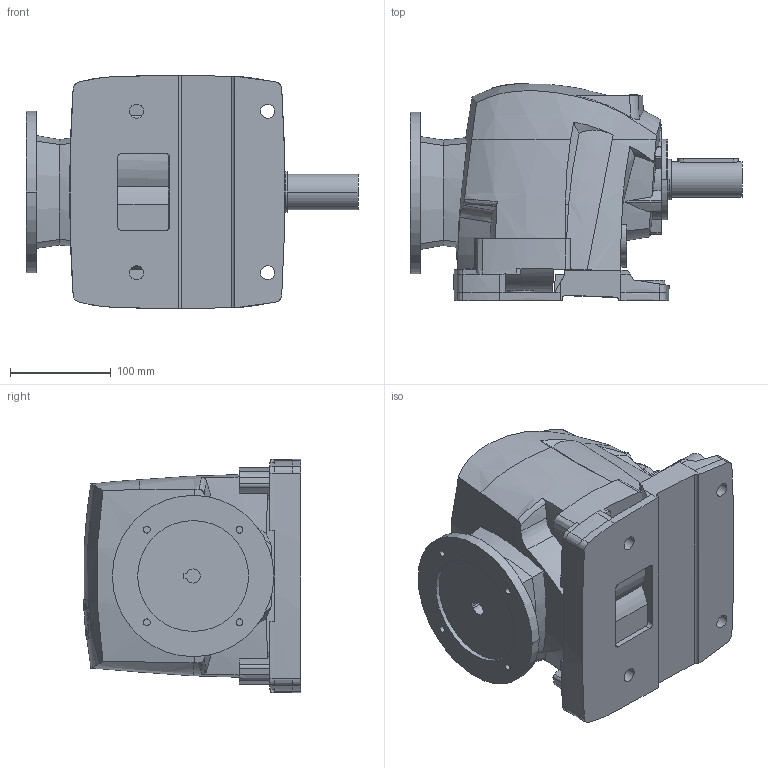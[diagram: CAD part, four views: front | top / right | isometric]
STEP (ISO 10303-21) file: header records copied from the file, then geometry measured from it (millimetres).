
FILE_DESCRIPTION((''),'2;1');
FILE_NAME('R30_BF_PAM71_D2','2013-11-21T',('Luca'),(''),'PRO/ENGINEER BY PARAMETRIC TECHNOLOGY CORPORATION, 2008230','PRO/ENGINEER BY PARAMETRIC TECHNOLOGY CORPORATION, 2008230','');
FILE_SCHEMA(('CONFIG_CONTROL_DESIGN'));
Length unit declared in the file: millimetre
Products named in the file (1): R30_BF_PAM71_D2
Bounding box: 329.21 x 215.27 x 231.54 mm (x, y, z)
Volume: 7237695.4 mm3; surface area: 367903.1 mm2
Topology: 6 solids, 6 shells, 484 faces, 1340 edges, 890 vertices
Faces by surface type: plane 186, cylinder 131, bspline 86, extrusion 53, cone 24, torus 4
Entity records: 19916 total; most frequent: CARTESIAN_POINT 8455, ORIENTED_EDGE 2668, DIRECTION 1854, EDGE_CURVE 1334, VERTEX_POINT 888, VECTOR 688, LINE 635, AXIS2_PLACEMENT_3D 583
